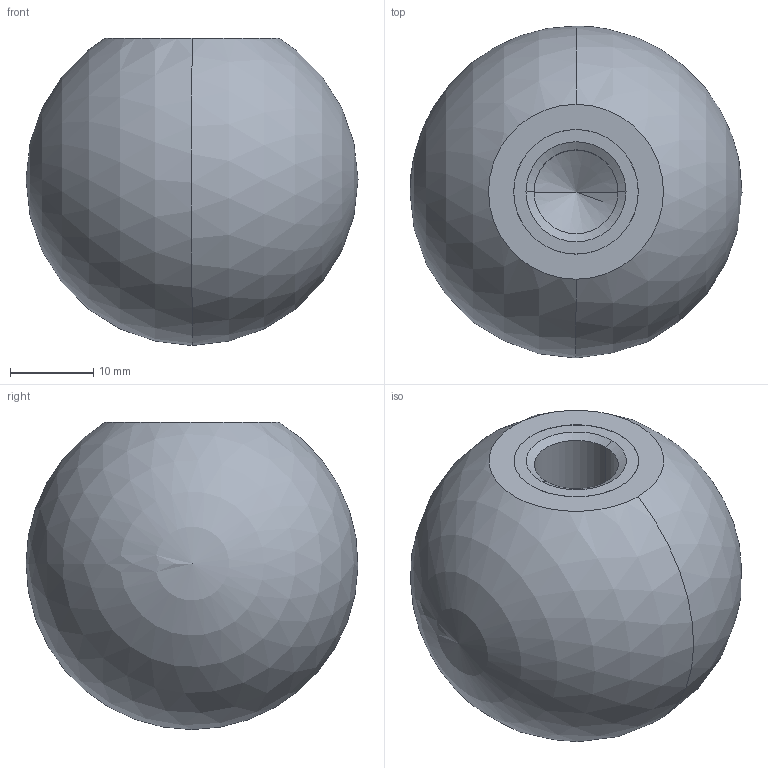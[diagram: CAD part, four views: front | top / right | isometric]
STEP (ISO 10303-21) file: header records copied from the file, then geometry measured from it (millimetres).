
FILE_DESCRIPTION (( 'STEP AP214' ), '1' );
FILE_NAME ('319-KU-40-M12-E.step', '2023-12-18T11:10:23', ( '' ), ( '' ), 'SwSTEP 2.0', 'SolidWorks 2022', '' );
FILE_SCHEMA (( 'AUTOMOTIVE_DESIGN' ));
Length unit declared in the file: millimetre
Products named in the file (1): 319-KU-40-M12-E
Bounding box: 40 x 40 x 37 mm (x, y, z)
Volume: 31440.7 mm3; surface area: 5571.1 mm2
Topology: 1 solids, 1 shells, 15 faces, 35 edges, 21 vertices
Faces by surface type: cylinder 6, cone 4, plane 3, sphere 2
Entity records: 517 total; most frequent: DIRECTION 78, CARTESIAN_POINT 62, ORIENTED_EDGE 56, AXIS2_PLACEMENT_3D 34, EDGE_CURVE 28, VERTEX_POINT 18, CIRCLE 18, EDGE_LOOP 18
